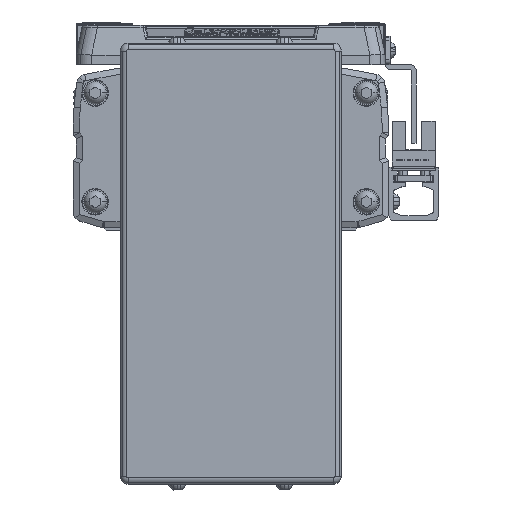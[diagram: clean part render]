
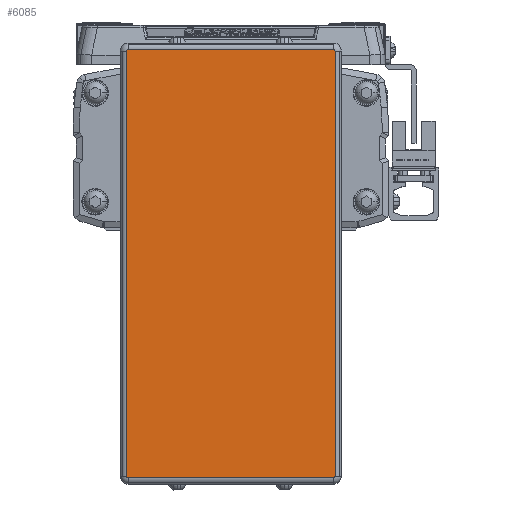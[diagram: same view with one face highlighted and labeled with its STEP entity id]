
A CAD part, left-side view. The second image highlights one B-rep face of the part: STEP entity #6085.
In plain terms, the highlighted planar face has unit normal (-1, 0, 0).
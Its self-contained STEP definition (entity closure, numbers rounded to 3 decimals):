
#6085=ADVANCED_FACE('',(#13011),#13012,.F.);
#13011=FACE_OUTER_BOUND('',#21290,.T.);
#13012=PLANE('',#21291);
#21290=EDGE_LOOP('',(#38533,#38534,#38535,#38536,#38537,#38538,#38539,#38540));
#21291=AXIS2_PLACEMENT_3D('',#38541,#38542,#38543);
#38533=ORIENTED_EDGE('',*,*,#53665,.T.);
#38534=ORIENTED_EDGE('',*,*,#49560,.T.);
#38535=ORIENTED_EDGE('',*,*,#53881,.T.);
#38536=ORIENTED_EDGE('',*,*,#53882,.T.);
#38537=ORIENTED_EDGE('',*,*,#53883,.T.);
#38538=ORIENTED_EDGE('',*,*,#53884,.T.);
#38539=ORIENTED_EDGE('',*,*,#53212,.T.);
#38540=ORIENTED_EDGE('',*,*,#49337,.T.);
#38541=CARTESIAN_POINT('',(-616.0,0.,-41.6));
#38542=DIRECTION('',(1.0,0.,0.));
#38543=DIRECTION('',(0.,0.,1.0));
#49337=EDGE_CURVE('',#59961,#59959,#59962,.T.);
#49560=EDGE_CURVE('',#60321,#60318,#60322,.T.);
#53212=EDGE_CURVE('',#65751,#59961,#65752,.T.);
#53665=EDGE_CURVE('',#59959,#60321,#66328,.T.);
#53881=EDGE_CURVE('',#60318,#66595,#66596,.T.);
#53882=EDGE_CURVE('',#66595,#66597,#66598,.T.);
#53883=EDGE_CURVE('',#66597,#66599,#66600,.T.);
#53884=EDGE_CURVE('',#66599,#65751,#66601,.T.);
#59959=VERTEX_POINT('',#74469);
#59961=VERTEX_POINT('',#74471);
#59962=CIRCLE('',#74472,0.5);
#60318=VERTEX_POINT('',#74955);
#60321=VERTEX_POINT('',#74958);
#60322=CIRCLE('',#74959,0.5);
#65751=VERTEX_POINT('',#82372);
#65752=LINE('',#82373,#82374);
#66328=LINE('',#83163,#83164);
#66595=VERTEX_POINT('',#83536);
#66596=LINE('',#83537,#83538);
#66597=VERTEX_POINT('',#83539);
#66598=CIRCLE('',#83540,0.5);
#66599=VERTEX_POINT('',#83541);
#66600=LINE('',#83542,#83543);
#66601=CIRCLE('',#83544,0.5);
#74469=CARTESIAN_POINT('',(-616.0,-33.05,-109.));
#74471=CARTESIAN_POINT('',(-616.0,-32.55,-109.5));
#74472=AXIS2_PLACEMENT_3D('',#89803,#89804,#89805);
#74955=CARTESIAN_POINT('',(-616.,-32.55,26.3));
#74958=CARTESIAN_POINT('',(-616.,-33.05,25.8));
#74959=AXIS2_PLACEMENT_3D('',#90103,#90104,#90105);
#82372=CARTESIAN_POINT('',(-616.0,32.55,-109.5));
#82373=CARTESIAN_POINT('',(-616.0,0.,-109.5));
#82374=VECTOR('',#94931,10.0);
#83163=CARTESIAN_POINT('',(-616.,-33.05,-41.6));
#83164=VECTOR('',#95447,10.0);
#83536=CARTESIAN_POINT('',(-616.,32.55,26.3));
#83537=CARTESIAN_POINT('',(-616.,0.,26.3));
#83538=VECTOR('',#95684,10.0);
#83539=CARTESIAN_POINT('',(-616.,33.05,25.8));
#83540=AXIS2_PLACEMENT_3D('',#95685,#95686,#95687);
#83541=CARTESIAN_POINT('',(-616.0,33.05,-109.));
#83542=CARTESIAN_POINT('',(-616.0,33.05,-41.6));
#83543=VECTOR('',#95688,10.0);
#83544=AXIS2_PLACEMENT_3D('',#95689,#95690,#95691);
#89803=CARTESIAN_POINT('',(-616.0,-32.55,-109.));
#89804=DIRECTION('',(-1.0,0.,0.));
#89805=DIRECTION('',(0.,-0.707,-0.707));
#90103=CARTESIAN_POINT('',(-616.,-32.55,25.8));
#90104=DIRECTION('',(-1.0,0.,0.));
#90105=DIRECTION('',(0.,-0.707,0.707));
#94931=DIRECTION('',(0.,-1.0,0.));
#95447=DIRECTION('',(0.,0.,1.0));
#95684=DIRECTION('',(0.,1.0,0.));
#95685=CARTESIAN_POINT('',(-616.,32.55,25.8));
#95686=DIRECTION('',(-1.0,0.,0.));
#95687=DIRECTION('',(0.,0.707,0.707));
#95688=DIRECTION('',(0.,0.,-1.0));
#95689=CARTESIAN_POINT('',(-616.0,32.55,-109.));
#95690=DIRECTION('',(-1.0,0.,0.));
#95691=DIRECTION('',(0.,0.707,-0.707));
